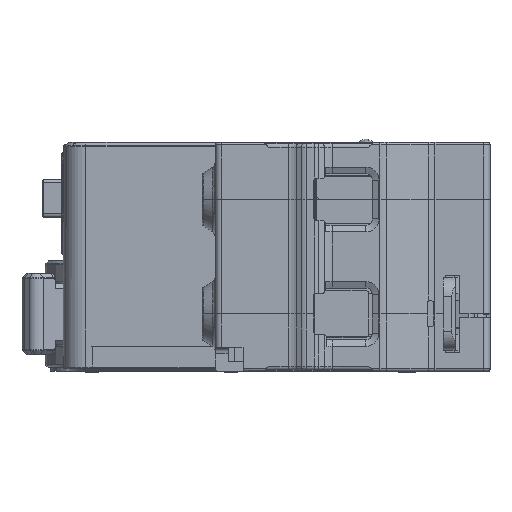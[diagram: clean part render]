
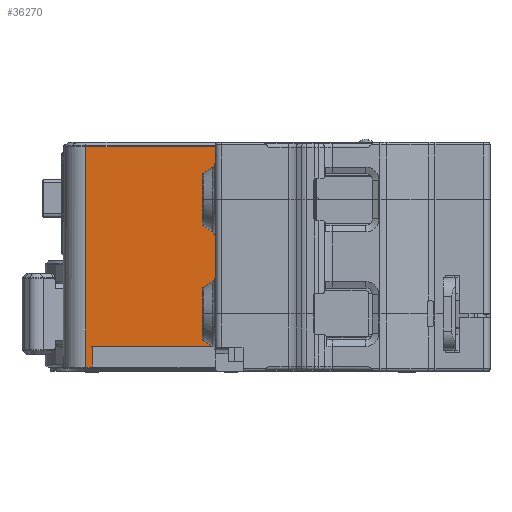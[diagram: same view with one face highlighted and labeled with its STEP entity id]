
A CAD part, top view. The second image highlights one B-rep face of the part: STEP entity #36270.
In plain terms, the highlighted planar face has unit normal (0, 0, 1).
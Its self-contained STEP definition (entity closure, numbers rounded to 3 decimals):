
#28295=DIRECTION('',(-1.,0.,0.));
#28296=VECTOR('',#28295,0.95);
#28297=CARTESIAN_POINT('',(7.26,0.655,-19.6));
#28298=LINE('',#28297,#28296);
#28299=DIRECTION('',(0.,1.,0.));
#28300=VECTOR('',#28299,34.09);
#28301=CARTESIAN_POINT('',(6.31,0.655,-19.6));
#28302=LINE('',#28301,#28300);
#28303=DIRECTION('',(-1.,0.,0.));
#28304=VECTOR('',#28303,20.);
#28305=CARTESIAN_POINT('',(26.31,34.745,-19.6));
#28306=LINE('',#28305,#28304);
#28307=DIRECTION('',(0.,-1.,0.));
#28308=VECTOR('',#28307,8.195);
#28309=CARTESIAN_POINT('',(26.31,34.745,-19.6));
#28310=LINE('',#28309,#28308);
#28311=DIRECTION('',(0.,-1.,0.));
#28312=VECTOR('',#28311,17.7);
#28313=CARTESIAN_POINT('',(26.31,26.55,-19.6));
#28314=LINE('',#28313,#28312);
#28315=DIRECTION('',(0.,-1.,0.));
#28316=VECTOR('',#28315,5.);
#28317=CARTESIAN_POINT('',(26.31,8.85,-19.6));
#28318=LINE('',#28317,#28316);
#28319=DIRECTION('',(-1.,0.,0.));
#28320=VECTOR('',#28319,19.05);
#28321=CARTESIAN_POINT('',(26.31,3.85,-19.6));
#28322=LINE('',#28321,#28320);
#28323=DIRECTION('',(0.,-1.,0.));
#28324=VECTOR('',#28323,3.195);
#28325=CARTESIAN_POINT('',(7.26,3.85,-19.6));
#28326=LINE('',#28325,#28324);
#33684=CARTESIAN_POINT('',(7.26,0.655,-19.6));
#34175=CARTESIAN_POINT('',(26.31,3.85,-19.6));
#34176=CARTESIAN_POINT('',(7.26,3.85,-19.6));
#34177=VERTEX_POINT('',#34175);
#34178=VERTEX_POINT('',#34176);
#35025=CARTESIAN_POINT('',(26.31,8.85,-19.6));
#35026=VERTEX_POINT('',#35025);
#35364=CARTESIAN_POINT('',(26.31,26.55,-19.6));
#35365=VERTEX_POINT('',#35364);
#35670=CARTESIAN_POINT('',(6.31,0.655,-19.6));
#35671=VERTEX_POINT('',#35670);
#35672=VERTEX_POINT('',#33684);
#35722=CARTESIAN_POINT('',(6.31,34.745,-19.6));
#35723=VERTEX_POINT('',#35722);
#35725=CARTESIAN_POINT('',(26.31,34.745,-19.6));
#35727=VERTEX_POINT('',#35725);
#36248=CARTESIAN_POINT('',(26.31,17.7,-19.6));
#36249=DIRECTION('',(0.,0.,1.));
#36250=DIRECTION('',(-1.,0.,0.));
#36251=AXIS2_PLACEMENT_3D('',#36248,#36249,#36250);
#36252=PLANE('',#36251);
#36254=ORIENTED_EDGE('',*,*,#36253,.T.);
#36256=ORIENTED_EDGE('',*,*,#36255,.T.);
#36258=ORIENTED_EDGE('',*,*,#36257,.F.);
#36260=ORIENTED_EDGE('',*,*,#36259,.T.);
#36261=ORIENTED_EDGE('',*,*,#36243,.T.);
#36263=ORIENTED_EDGE('',*,*,#36262,.T.);
#36265=ORIENTED_EDGE('',*,*,#36264,.T.);
#36267=ORIENTED_EDGE('',*,*,#36266,.T.);
#36268=EDGE_LOOP('',(#36254,#36256,#36258,#36260,#36261,#36263,#36265,#36267));
#36269=FACE_OUTER_BOUND('',#36268,.F.);
#36270=ADVANCED_FACE('',(#36269),#36252,.T.);
#36243=EDGE_CURVE('',#35365,#35026,#28314,.T.);
#36253=EDGE_CURVE('',#35672,#35671,#28298,.T.);
#36255=EDGE_CURVE('',#35671,#35723,#28302,.T.);
#36257=EDGE_CURVE('',#35727,#35723,#28306,.T.);
#36259=EDGE_CURVE('',#35727,#35365,#28310,.T.);
#36262=EDGE_CURVE('',#35026,#34177,#28318,.T.);
#36264=EDGE_CURVE('',#34177,#34178,#28322,.T.);
#36266=EDGE_CURVE('',#34178,#35672,#28326,.T.);
